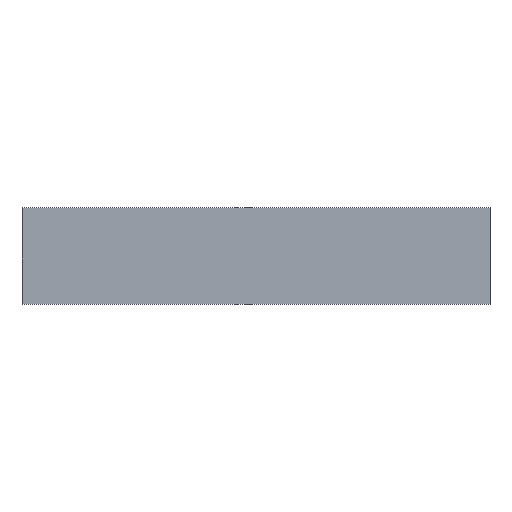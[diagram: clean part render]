
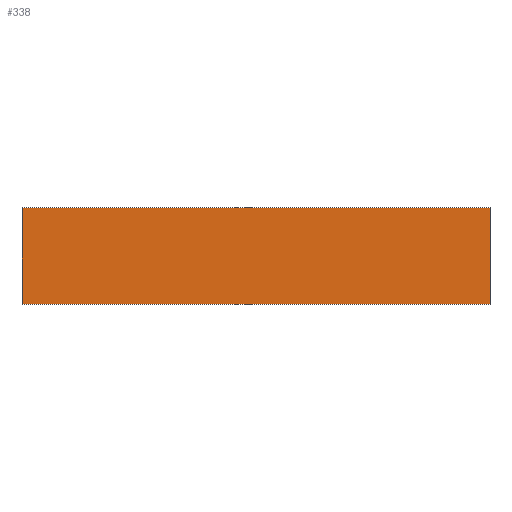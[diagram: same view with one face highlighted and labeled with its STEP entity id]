
A CAD part, top view. The second image highlights one B-rep face of the part: STEP entity #338.
In plain terms, the highlighted planar face has unit normal (0, 0, 1).
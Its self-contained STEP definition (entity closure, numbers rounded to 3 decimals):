
#24 = VERTEX_POINT('',#25);
#25 = CARTESIAN_POINT('',(35.,-148.913,217.));
#32 = PLANE('',#33);
#33 = AXIS2_PLACEMENT_3D('',#34,#35,#36);
#34 = CARTESIAN_POINT('',(35.,-148.913,205.));
#35 = DIRECTION('',(1.,0.,-0.));
#36 = DIRECTION('',(0.,0.,1.));
#44 = PLANE('',#45);
#45 = AXIS2_PLACEMENT_3D('',#46,#47,#48);
#46 = CARTESIAN_POINT('',(35.,-148.913,205.));
#47 = DIRECTION('',(-0.,1.,0.));
#48 = DIRECTION('',(0.,0.,1.));
#85 = VERTEX_POINT('',#86);
#86 = CARTESIAN_POINT('',(35.,-84.913,217.));
#100 = PLANE('',#101);
#101 = AXIS2_PLACEMENT_3D('',#102,#103,#104);
#102 = CARTESIAN_POINT('',(35.,-84.913,205.));
#103 = DIRECTION('',(-0.,1.,0.));
#104 = DIRECTION('',(0.,0.,1.));
#112 = EDGE_CURVE('',#24,#85,#113,.T.);
#113 = SURFACE_CURVE('',#114,(#118,#125),.PCURVE_S1.);
#114 = LINE('',#115,#116);
#115 = CARTESIAN_POINT('',(35.,-148.913,217.));
#116 = VECTOR('',#117,1.);
#117 = DIRECTION('',(-0.,1.,0.));
#118 = PCURVE('',#32,#119);
#119 = DEFINITIONAL_REPRESENTATION('',(#120),#124);
#120 = LINE('',#121,#122);
#121 = CARTESIAN_POINT('',(12.,0.));
#122 = VECTOR('',#123,1.);
#123 = DIRECTION('',(0.,-1.));
#124 = ( GEOMETRIC_REPRESENTATION_CONTEXT(2) 
PARAMETRIC_REPRESENTATION_CONTEXT() REPRESENTATION_CONTEXT('2D SPACE',''
  ) );
#125 = PCURVE('',#126,#131);
#126 = PLANE('',#127);
#127 = AXIS2_PLACEMENT_3D('',#128,#129,#130);
#128 = CARTESIAN_POINT('',(35.,-148.913,217.));
#129 = DIRECTION('',(0.,0.,1.));
#130 = DIRECTION('',(1.,0.,-0.));
#131 = DEFINITIONAL_REPRESENTATION('',(#132),#136);
#132 = LINE('',#133,#134);
#133 = CARTESIAN_POINT('',(0.,0.));
#134 = VECTOR('',#135,1.);
#135 = DIRECTION('',(0.,1.));
#136 = ( GEOMETRIC_REPRESENTATION_CONTEXT(2) 
PARAMETRIC_REPRESENTATION_CONTEXT() REPRESENTATION_CONTEXT('2D SPACE',''
  ) );
#144 = VERTEX_POINT('',#145);
#145 = CARTESIAN_POINT('',(345.,-148.913,217.));
#152 = PLANE('',#153);
#153 = AXIS2_PLACEMENT_3D('',#154,#155,#156);
#154 = CARTESIAN_POINT('',(345.,-148.913,205.));
#155 = DIRECTION('',(1.,0.,-0.));
#156 = DIRECTION('',(0.,0.,1.));
#195 = VERTEX_POINT('',#196);
#196 = CARTESIAN_POINT('',(345.,-84.913,217.));
#217 = EDGE_CURVE('',#144,#195,#218,.T.);
#218 = SURFACE_CURVE('',#219,(#223,#230),.PCURVE_S1.);
#219 = LINE('',#220,#221);
#220 = CARTESIAN_POINT('',(345.,-148.913,217.));
#221 = VECTOR('',#222,1.);
#222 = DIRECTION('',(-0.,1.,0.));
#223 = PCURVE('',#152,#224);
#224 = DEFINITIONAL_REPRESENTATION('',(#225),#229);
#225 = LINE('',#226,#227);
#226 = CARTESIAN_POINT('',(12.,0.));
#227 = VECTOR('',#228,1.);
#228 = DIRECTION('',(0.,-1.));
#229 = ( GEOMETRIC_REPRESENTATION_CONTEXT(2) 
PARAMETRIC_REPRESENTATION_CONTEXT() REPRESENTATION_CONTEXT('2D SPACE',''
  ) );
#230 = PCURVE('',#126,#231);
#231 = DEFINITIONAL_REPRESENTATION('',(#232),#236);
#232 = LINE('',#233,#234);
#233 = CARTESIAN_POINT('',(310.,0.));
#234 = VECTOR('',#235,1.);
#235 = DIRECTION('',(0.,1.));
#236 = ( GEOMETRIC_REPRESENTATION_CONTEXT(2) 
PARAMETRIC_REPRESENTATION_CONTEXT() REPRESENTATION_CONTEXT('2D SPACE',''
  ) );
#263 = EDGE_CURVE('',#24,#144,#264,.T.);
#264 = SURFACE_CURVE('',#265,(#269,#276),.PCURVE_S1.);
#265 = LINE('',#266,#267);
#266 = CARTESIAN_POINT('',(35.,-148.913,217.));
#267 = VECTOR('',#268,1.);
#268 = DIRECTION('',(1.,0.,-0.));
#269 = PCURVE('',#44,#270);
#270 = DEFINITIONAL_REPRESENTATION('',(#271),#275);
#271 = LINE('',#272,#273);
#272 = CARTESIAN_POINT('',(12.,0.));
#273 = VECTOR('',#274,1.);
#274 = DIRECTION('',(0.,1.));
#275 = ( GEOMETRIC_REPRESENTATION_CONTEXT(2) 
PARAMETRIC_REPRESENTATION_CONTEXT() REPRESENTATION_CONTEXT('2D SPACE',''
  ) );
#276 = PCURVE('',#126,#277);
#277 = DEFINITIONAL_REPRESENTATION('',(#278),#282);
#278 = LINE('',#279,#280);
#279 = CARTESIAN_POINT('',(0.,0.));
#280 = VECTOR('',#281,1.);
#281 = DIRECTION('',(1.,0.));
#282 = ( GEOMETRIC_REPRESENTATION_CONTEXT(2) 
PARAMETRIC_REPRESENTATION_CONTEXT() REPRESENTATION_CONTEXT('2D SPACE',''
  ) );
#310 = EDGE_CURVE('',#85,#195,#311,.T.);
#311 = SURFACE_CURVE('',#312,(#316,#323),.PCURVE_S1.);
#312 = LINE('',#313,#314);
#313 = CARTESIAN_POINT('',(35.,-84.913,217.));
#314 = VECTOR('',#315,1.);
#315 = DIRECTION('',(1.,0.,-0.));
#316 = PCURVE('',#100,#317);
#317 = DEFINITIONAL_REPRESENTATION('',(#318),#322);
#318 = LINE('',#319,#320);
#319 = CARTESIAN_POINT('',(12.,0.));
#320 = VECTOR('',#321,1.);
#321 = DIRECTION('',(0.,1.));
#322 = ( GEOMETRIC_REPRESENTATION_CONTEXT(2) 
PARAMETRIC_REPRESENTATION_CONTEXT() REPRESENTATION_CONTEXT('2D SPACE',''
  ) );
#323 = PCURVE('',#126,#324);
#324 = DEFINITIONAL_REPRESENTATION('',(#325),#329);
#325 = LINE('',#326,#327);
#326 = CARTESIAN_POINT('',(0.,64.));
#327 = VECTOR('',#328,1.);
#328 = DIRECTION('',(1.,0.));
#329 = ( GEOMETRIC_REPRESENTATION_CONTEXT(2) 
PARAMETRIC_REPRESENTATION_CONTEXT() REPRESENTATION_CONTEXT('2D SPACE',''
  ) );
#338 = ADVANCED_FACE('',(#339),#126,.T.);
#339 = FACE_BOUND('',#340,.T.);
#340 = EDGE_LOOP('',(#341,#342,#343,#344));
#341 = ORIENTED_EDGE('',*,*,#112,.F.);
#342 = ORIENTED_EDGE('',*,*,#263,.T.);
#343 = ORIENTED_EDGE('',*,*,#217,.T.);
#344 = ORIENTED_EDGE('',*,*,#310,.F.);
